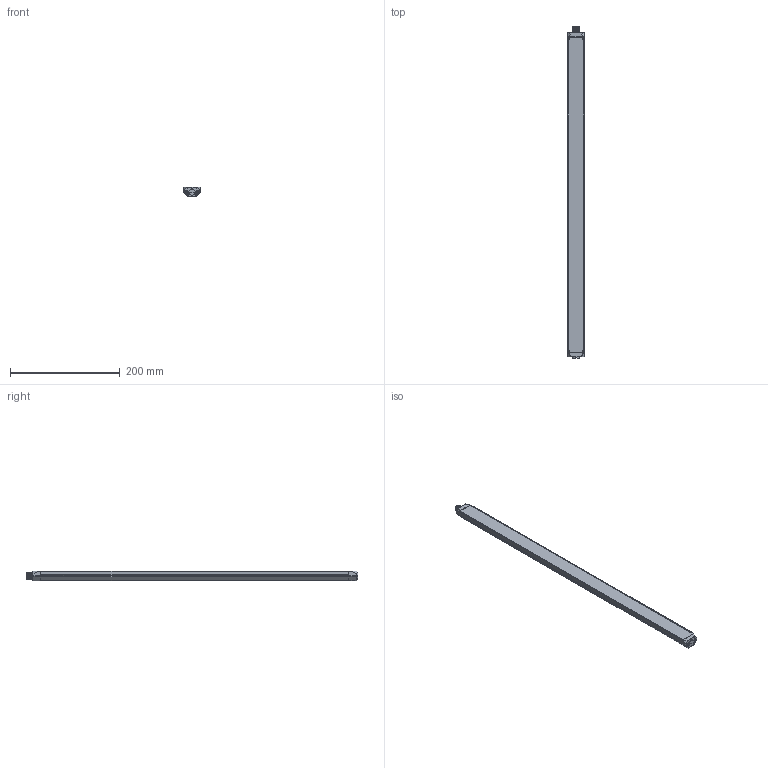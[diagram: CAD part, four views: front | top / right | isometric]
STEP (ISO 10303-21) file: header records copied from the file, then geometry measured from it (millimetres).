
FILE_DESCRIPTION(/* description */ (''),/* implementation_level */ '2;1');
FILE_NAME(/* name */ '560.step',/* time_stamp */ '2026-07-03T10:09:59+02:00',/* author */ (''),/* organization */ (''),/* preprocessor_version */ 'ST-DEVELOPER v20.1',/* originating_system */ 'Autodesk Translation Framework v15.8.0.0',/* authorisation */ '');
FILE_SCHEMA (('AUTOMOTIVE_DESIGN { 1 0 10303 214 3 1 1 }'));
Length unit declared in the file: millimetre
Products named in the file (1): 2026-07-03-09-42-44-480
Bounding box: 30 x 606 x 18 mm (x, y, z)
Volume: 262660 mm3; surface area: 71423 mm2
Topology: 1 solids, 2 shells, 652 faces, 1783 edges, 1113 vertices
Faces by surface type: plane 318, cylinder 199, bspline 65, cone 52, sphere 12, torus 6
Full cylindrical faces by diameter (mm): 1 x5, 2.9 x4, 5.5 x4, 5.62 x2, 5.622 x2, 8.3 x1, 9.4 x2, 9.69 x1, 10.5 x1, 10.891 x8, 11.88 x8
Entity records: 27385 total; most frequent: CARTESIAN_POINT 11063, ORIENTED_EDGE 3486, DIRECTION 3013, EDGE_CURVE 1743, VERTEX_POINT 1113, AXIS2_PLACEMENT_3D 1017, LINE 979, VECTOR 979
